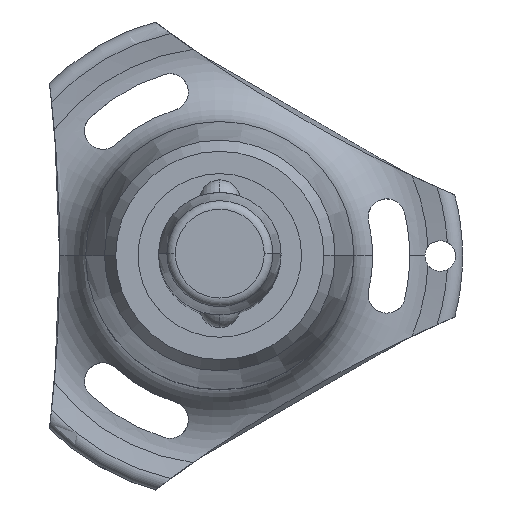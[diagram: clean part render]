
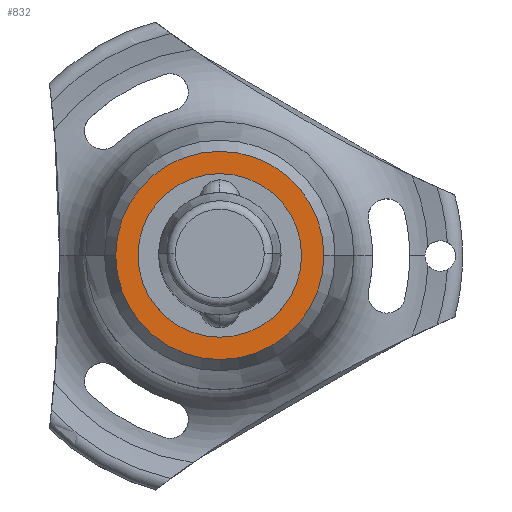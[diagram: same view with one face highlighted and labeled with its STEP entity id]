
A CAD part, top view. The second image highlights one B-rep face of the part: STEP entity #832.
In plain terms, the highlighted planar face has unit normal (0, 0, 1).
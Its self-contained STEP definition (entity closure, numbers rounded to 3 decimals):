
#104 = DIRECTION ( 'NONE',  ( 0., 0., -1. ) ) ;
#111 = ORIENTED_EDGE ( 'NONE', *, *, #986, .F. ) ;
#132 = ORIENTED_EDGE ( 'NONE', *, *, #1218, .T. ) ;
#145 = ORIENTED_EDGE ( 'NONE', *, *, #1638, .F. ) ;
#163 = AXIS2_PLACEMENT_3D ( 'NONE', #687, #172, #1272 ) ;
#172 = DIRECTION ( 'NONE',  ( 0., 0., -1. ) ) ;
#240 = DIRECTION ( 'NONE',  ( 1., 0., 0. ) ) ;
#261 = AXIS2_PLACEMENT_3D ( 'NONE', #270, #1166, #931 ) ;
#270 = CARTESIAN_POINT ( 'NONE',  ( 0., 0., -90.85 ) ) ;
#455 = CARTESIAN_POINT ( 'NONE',  ( 0., 8.017, -90.85 ) ) ;
#477 = EDGE_CURVE ( 'NONE', #1076, #556, #672, .T. ) ;
#506 = EDGE_LOOP ( 'NONE', ( #132, #1538 ) ) ;
#526 = CARTESIAN_POINT ( 'NONE',  ( 0., 0., -90.85 ) ) ;
#556 = VERTEX_POINT ( 'NONE', #1629 ) ;
#602 = CARTESIAN_POINT ( 'NONE',  ( 0., 0., -90.85 ) ) ;
#672 = CIRCLE ( 'NONE', #2606, 8.017 ) ;
#687 = CARTESIAN_POINT ( 'NONE',  ( 0., 0., -90.85 ) ) ;
#832 = ADVANCED_FACE ( 'NONE', ( #1391, #2276 ), #1776, .T. ) ;
#919 = DIRECTION ( 'NONE',  ( 0., 0., 1. ) ) ;
#931 = DIRECTION ( 'NONE',  ( -1., 0., 0. ) ) ;
#986 = EDGE_CURVE ( 'NONE', #1235, #1581, #1556, .T. ) ;
#1076 = VERTEX_POINT ( 'NONE', #1762 ) ;
#1087 = AXIS2_PLACEMENT_3D ( 'NONE', #526, #104, #1867 ) ;
#1166 = DIRECTION ( 'NONE',  ( 0., 0., -1. ) ) ;
#1218 = EDGE_CURVE ( 'NONE', #556, #1076, #1509, .T. ) ;
#1235 = VERTEX_POINT ( 'NONE', #2350 ) ;
#1272 = DIRECTION ( 'NONE',  ( -1., 0., 0. ) ) ;
#1282 = DIRECTION ( 'NONE',  ( 0., 0., -1. ) ) ;
#1391 = FACE_BOUND ( 'NONE', #506, .T. ) ;
#1419 = CIRCLE ( 'NONE', #163, 10.206 ) ;
#1509 = CIRCLE ( 'NONE', #261, 8.017 ) ;
#1538 = ORIENTED_EDGE ( 'NONE', *, *, #477, .T. ) ;
#1556 = CIRCLE ( 'NONE', #1087, 10.206 ) ;
#1581 = VERTEX_POINT ( 'NONE', #1769 ) ;
#1629 = CARTESIAN_POINT ( 'NONE',  ( -8.017, 0., -90.85 ) ) ;
#1638 = EDGE_CURVE ( 'NONE', #1581, #1235, #1419, .T. ) ;
#1691 = AXIS2_PLACEMENT_3D ( 'NONE', #455, #919, #240 ) ;
#1762 = CARTESIAN_POINT ( 'NONE',  ( 8.017, 0., -90.85 ) ) ;
#1769 = CARTESIAN_POINT ( 'NONE',  ( 10.206, 0., -90.85 ) ) ;
#1776 = PLANE ( 'NONE',  #1691 ) ;
#1867 = DIRECTION ( 'NONE',  ( -1., 0., 0. ) ) ;
#2186 = DIRECTION ( 'NONE',  ( -1., 0., 0. ) ) ;
#2276 = FACE_OUTER_BOUND ( 'NONE', #2593, .T. ) ;
#2350 = CARTESIAN_POINT ( 'NONE',  ( -10.206, 0., -90.85 ) ) ;
#2593 = EDGE_LOOP ( 'NONE', ( #111, #145 ) ) ;
#2606 = AXIS2_PLACEMENT_3D ( 'NONE', #602, #1282, #2186 ) ;
